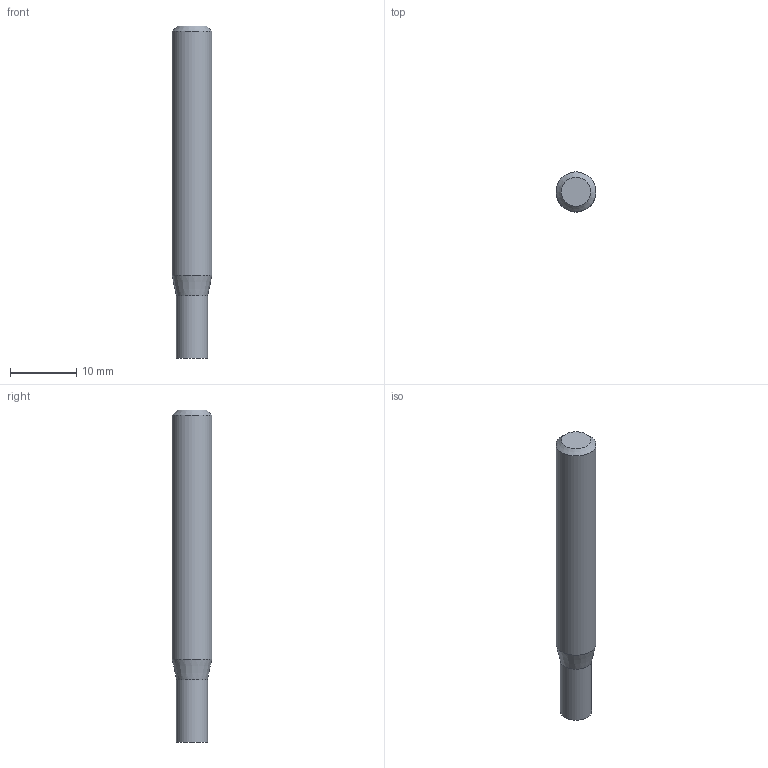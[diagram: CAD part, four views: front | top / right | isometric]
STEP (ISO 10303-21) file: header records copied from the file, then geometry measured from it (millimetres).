
FILE_DESCRIPTION((''),'2;1');
FILE_NAME('C:\Users\nsx150\AppData\Local\Temp\Mastercam 2021\E36A1X9CCL\TEMP.step','2023-04-21T15:13:02',(''),(''),'STEP Write','Mastercam 2021 ... CNC Software, Inc.','');
FILE_SCHEMA(('AUTOMOTIVE_DESIGN'));
Length unit declared in the file: millimetre
Products named in the file (1): None
Bounding box: 6 x 6 x 50 mm (x, y, z)
Volume: 1288.1 mm3; surface area: 969.6 mm2
Topology: 2 solids, 2 shells, 8 faces, 10 edges, 6 vertices
Faces by surface type: plane 4, cylinder 2, cone 2
Full cylindrical faces by diameter (mm): 4.7 x1, 6 x1
Entity records: 190 total; most frequent: DIRECTION 32, CARTESIAN_POINT 22, AXIS2_PLACEMENT_3D 16, ORIENTED_EDGE 12, EDGE_LOOP 12, STYLED_ITEM 11, ADVANCED_FACE 8, VERTEX_POINT 6
